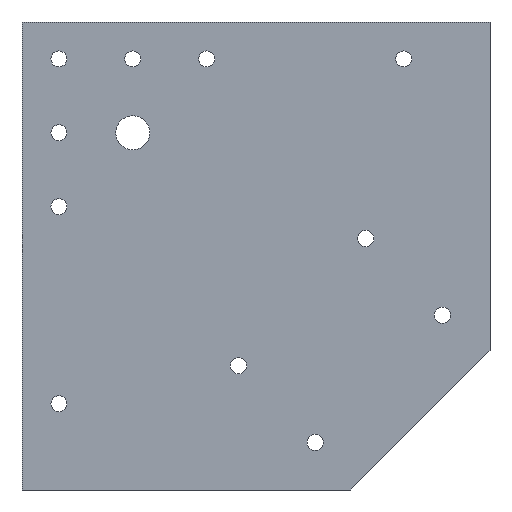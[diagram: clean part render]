
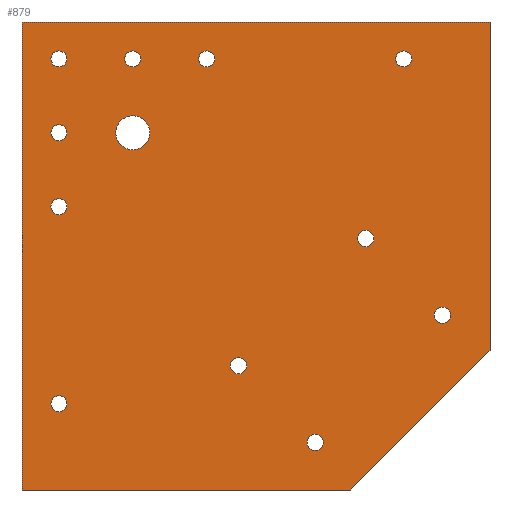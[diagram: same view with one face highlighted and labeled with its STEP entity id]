
A CAD part, front view. The second image highlights one B-rep face of the part: STEP entity #879.
In plain terms, the highlighted planar face has unit normal (0, -1, 0).
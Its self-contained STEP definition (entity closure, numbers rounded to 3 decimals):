
#34=LINE('',#1281,#61);
#36=LINE('',#1285,#63);
#37=LINE('',#1287,#64);
#38=LINE('',#1289,#65);
#39=LINE('',#1291,#66);
#61=VECTOR('',#1122,1000.);
#63=VECTOR('',#1126,1000.);
#64=VECTOR('',#1127,1000.);
#65=VECTOR('',#1128,1000.);
#66=VECTOR('',#1129,1000.);
#87=PLANE('',#960);
#173=ORIENTED_EDGE('',*,*,#223,.T.);
#174=ORIENTED_EDGE('',*,*,#225,.T.);
#175=ORIENTED_EDGE('',*,*,#227,.T.);
#176=ORIENTED_EDGE('',*,*,#229,.T.);
#177=ORIENTED_EDGE('',*,*,#231,.T.);
#178=ORIENTED_EDGE('',*,*,#236,.T.);
#179=ORIENTED_EDGE('',*,*,#240,.T.);
#180=ORIENTED_EDGE('',*,*,#244,.T.);
#181=ORIENTED_EDGE('',*,*,#248,.T.);
#182=ORIENTED_EDGE('',*,*,#252,.T.);
#183=ORIENTED_EDGE('',*,*,#256,.T.);
#184=ORIENTED_EDGE('',*,*,#260,.T.);
#185=ORIENTED_EDGE('',*,*,#275,.T.);
#186=ORIENTED_EDGE('',*,*,#277,.T.);
#187=ORIENTED_EDGE('',*,*,#278,.T.);
#188=ORIENTED_EDGE('',*,*,#279,.T.);
#189=ORIENTED_EDGE('',*,*,#280,.T.);
#223=EDGE_CURVE('',#288,#288,#344,.T.);
#225=EDGE_CURVE('',#290,#290,#346,.T.);
#227=EDGE_CURVE('',#292,#292,#348,.T.);
#229=EDGE_CURVE('',#294,#294,#350,.T.);
#231=EDGE_CURVE('',#296,#296,#352,.T.);
#236=EDGE_CURVE('',#301,#301,#357,.T.);
#240=EDGE_CURVE('',#305,#305,#361,.T.);
#244=EDGE_CURVE('',#309,#309,#365,.T.);
#248=EDGE_CURVE('',#313,#313,#369,.T.);
#252=EDGE_CURVE('',#317,#317,#373,.T.);
#256=EDGE_CURVE('',#321,#321,#377,.T.);
#260=EDGE_CURVE('',#325,#325,#381,.T.);
#275=EDGE_CURVE('',#337,#336,#34,.T.);
#277=EDGE_CURVE('',#336,#338,#36,.T.);
#278=EDGE_CURVE('',#338,#339,#37,.T.);
#279=EDGE_CURVE('',#339,#340,#38,.T.);
#280=EDGE_CURVE('',#340,#337,#39,.T.);
#288=VERTEX_POINT('',#1150);
#290=VERTEX_POINT('',#1155);
#292=VERTEX_POINT('',#1160);
#294=VERTEX_POINT('',#1165);
#296=VERTEX_POINT('',#1170);
#301=VERTEX_POINT('',#1183);
#305=VERTEX_POINT('',#1194);
#309=VERTEX_POINT('',#1205);
#313=VERTEX_POINT('',#1216);
#317=VERTEX_POINT('',#1227);
#321=VERTEX_POINT('',#1238);
#325=VERTEX_POINT('',#1249);
#336=VERTEX_POINT('',#1280);
#337=VERTEX_POINT('',#1282);
#338=VERTEX_POINT('',#1286);
#339=VERTEX_POINT('',#1288);
#340=VERTEX_POINT('',#1290);
#344=CIRCLE('',#891,3.324);
#346=CIRCLE('',#894,3.324);
#348=CIRCLE('',#897,3.324);
#350=CIRCLE('',#900,3.324);
#352=CIRCLE('',#903,6.918);
#357=CIRCLE('',#911,3.25);
#361=CIRCLE('',#918,3.25);
#365=CIRCLE('',#925,3.25);
#369=CIRCLE('',#932,3.25);
#373=CIRCLE('',#939,3.25);
#377=CIRCLE('',#946,3.25);
#381=CIRCLE('',#953,3.25);
#444=EDGE_LOOP('',(#173));
#445=EDGE_LOOP('',(#174));
#446=EDGE_LOOP('',(#175));
#447=EDGE_LOOP('',(#176));
#448=EDGE_LOOP('',(#177));
#449=EDGE_LOOP('',(#178));
#450=EDGE_LOOP('',(#179));
#451=EDGE_LOOP('',(#180));
#452=EDGE_LOOP('',(#181));
#453=EDGE_LOOP('',(#182));
#454=EDGE_LOOP('',(#183));
#455=EDGE_LOOP('',(#184));
#456=EDGE_LOOP('',(#185,#186,#187,#188,#189));
#533=FACE_BOUND('',#444,.T.);
#534=FACE_BOUND('',#445,.T.);
#535=FACE_BOUND('',#446,.T.);
#536=FACE_BOUND('',#447,.T.);
#537=FACE_BOUND('',#448,.T.);
#538=FACE_BOUND('',#449,.T.);
#539=FACE_BOUND('',#450,.T.);
#540=FACE_BOUND('',#451,.T.);
#541=FACE_BOUND('',#452,.T.);
#542=FACE_BOUND('',#453,.T.);
#543=FACE_BOUND('',#454,.T.);
#544=FACE_BOUND('',#455,.T.);
#545=FACE_BOUND('',#456,.T.);
#879=ADVANCED_FACE('',(#533,#534,#535,#536,#537,#538,#539,#540,#541,#542,
#543,#544,#545),#87,.F.);
#891=AXIS2_PLACEMENT_3D('',#1149,#970,#971);
#894=AXIS2_PLACEMENT_3D('',#1154,#976,#977);
#897=AXIS2_PLACEMENT_3D('',#1159,#982,#983);
#900=AXIS2_PLACEMENT_3D('',#1164,#988,#989);
#903=AXIS2_PLACEMENT_3D('',#1169,#994,#995);
#911=AXIS2_PLACEMENT_3D('',#1182,#1010,#1011);
#918=AXIS2_PLACEMENT_3D('',#1193,#1024,#1025);
#925=AXIS2_PLACEMENT_3D('',#1204,#1038,#1039);
#932=AXIS2_PLACEMENT_3D('',#1215,#1052,#1053);
#939=AXIS2_PLACEMENT_3D('',#1226,#1066,#1067);
#946=AXIS2_PLACEMENT_3D('',#1237,#1080,#1081);
#953=AXIS2_PLACEMENT_3D('',#1248,#1094,#1095);
#960=AXIS2_PLACEMENT_3D('',#1284,#1124,#1125);
#970=DIRECTION('',(0.,1.,0.));
#971=DIRECTION('',(1.,0.,0.));
#976=DIRECTION('',(0.,1.,0.));
#977=DIRECTION('',(1.,0.,0.));
#982=DIRECTION('',(0.,1.,0.));
#983=DIRECTION('',(1.,0.,0.));
#988=DIRECTION('',(0.,1.,0.));
#989=DIRECTION('',(1.,0.,0.));
#994=DIRECTION('',(0.,1.,0.));
#995=DIRECTION('',(1.,0.,0.));
#1010=DIRECTION('',(0.,1.,0.));
#1011=DIRECTION('',(1.,0.,0.));
#1024=DIRECTION('',(0.,1.,0.));
#1025=DIRECTION('',(1.,0.,0.));
#1038=DIRECTION('',(0.,1.,0.));
#1039=DIRECTION('',(1.,0.,0.));
#1052=DIRECTION('',(0.,1.,0.));
#1053=DIRECTION('',(1.,0.,0.));
#1066=DIRECTION('',(0.,1.,0.));
#1067=DIRECTION('',(1.,0.,0.));
#1080=DIRECTION('',(0.,1.,0.));
#1081=DIRECTION('',(1.,0.,0.));
#1094=DIRECTION('',(0.,1.,0.));
#1095=DIRECTION('',(1.,0.,0.));
#1122=DIRECTION('',(0.707,0.,0.707));
#1124=DIRECTION('',(0.,1.,0.));
#1125=DIRECTION('',(0.,0.,1.));
#1126=DIRECTION('',(0.,0.,1.));
#1127=DIRECTION('',(-1.,0.,0.));
#1128=DIRECTION('',(0.,0.,-1.));
#1129=DIRECTION('',(1.,0.,0.));
#1149=CARTESIAN_POINT('',(24.032,0.,-75.651));
#1150=CARTESIAN_POINT('',(20.708,0.,-75.651));
#1154=CARTESIAN_POINT('',(-7.081,0.,-44.538));
#1155=CARTESIAN_POINT('',(-10.404,0.,-44.538));
#1159=CARTESIAN_POINT('',(44.538,0.,7.081));
#1160=CARTESIAN_POINT('',(41.214,0.,7.081));
#1164=CARTESIAN_POINT('',(75.651,0.,-24.032));
#1165=CARTESIAN_POINT('',(72.327,0.,-24.032));
#1169=CARTESIAN_POINT('',(-50.,0.,50.));
#1170=CARTESIAN_POINT('',(-56.918,0.,50.));
#1182=CARTESIAN_POINT('',(-80.,0.,20.));
#1183=CARTESIAN_POINT('',(-83.25,0.,20.));
#1193=CARTESIAN_POINT('',(60.,0.,80.));
#1194=CARTESIAN_POINT('',(56.75,0.,80.));
#1204=CARTESIAN_POINT('',(-50.,0.,80.));
#1205=CARTESIAN_POINT('',(-53.25,0.,80.));
#1215=CARTESIAN_POINT('',(-80.,0.,80.));
#1216=CARTESIAN_POINT('',(-83.25,0.,80.));
#1226=CARTESIAN_POINT('',(-20.,0.,80.));
#1227=CARTESIAN_POINT('',(-23.25,0.,80.));
#1237=CARTESIAN_POINT('',(-80.,0.,50.));
#1238=CARTESIAN_POINT('',(-83.25,0.,50.));
#1248=CARTESIAN_POINT('',(-80.,0.,-60.));
#1249=CARTESIAN_POINT('',(-83.25,0.,-60.));
#1280=CARTESIAN_POINT('',(95.,0.,-38.482));
#1281=CARTESIAN_POINT('',(80.871,0.,-52.612));
#1282=CARTESIAN_POINT('',(38.482,0.,-95.));
#1284=CARTESIAN_POINT('',(0.,0.,0.));
#1285=CARTESIAN_POINT('',(95.,0.,-95.));
#1286=CARTESIAN_POINT('',(95.,0.,95.));
#1287=CARTESIAN_POINT('',(95.,0.,95.));
#1288=CARTESIAN_POINT('',(-95.,0.,95.));
#1289=CARTESIAN_POINT('',(-95.,0.,95.));
#1290=CARTESIAN_POINT('',(-95.,0.,-95.));
#1291=CARTESIAN_POINT('',(-95.,0.,-95.));
